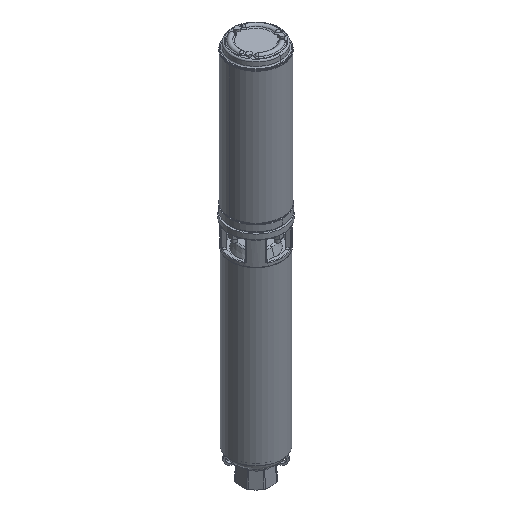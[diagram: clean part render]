
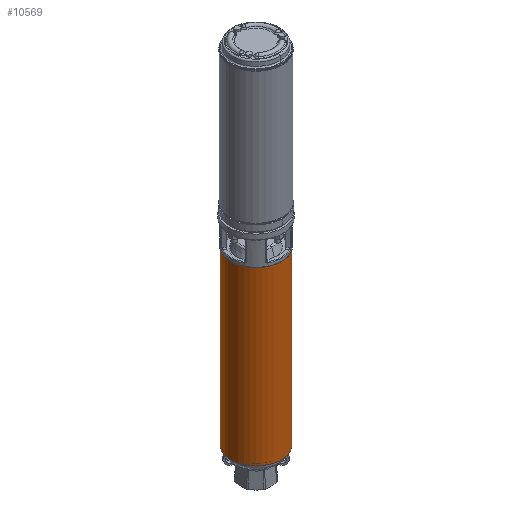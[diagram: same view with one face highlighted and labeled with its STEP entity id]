
A CAD part, isometric view. The second image highlights one B-rep face of the part: STEP entity #10569.
In plain terms, the highlighted cylindrical face has radius 44.5 mm (diameter 89 mm), a partial arc.
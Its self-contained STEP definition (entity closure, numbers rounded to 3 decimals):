
#36=CARTESIAN_POINT('',(0.,0.,0.));
#37=DIRECTION('',(1.,0.,0.));
#38=DIRECTION('',(0.,-0.966,0.259));
#39=AXIS2_PLACEMENT_3D('',#36,#37,#38);
#2893=DIRECTION('',(1.,0.,0.));
#2894=VECTOR('',#2893,300.);
#2895=CARTESIAN_POINT('',(0.,-11.517,42.984));
#2896=LINE('',#2895,#2894);
#3376=CARTESIAN_POINT('',(300.,0.,0.));
#3377=DIRECTION('',(1.,0.,0.));
#3378=DIRECTION('',(0.,-0.966,0.259));
#3379=AXIS2_PLACEMENT_3D('',#3376,#3377,#3378);
#3428=DIRECTION('',(1.,0.,0.));
#3429=VECTOR('',#3428,300.);
#3430=CARTESIAN_POINT('',(0.,-42.984,11.517));
#3431=LINE('',#3430,#3429);
#5252=CARTESIAN_POINT('',(300.,-11.517,42.984));
#5254=VERTEX_POINT('',#5252);
#5255=CARTESIAN_POINT('',(300.,-42.984,11.517));
#5257=VERTEX_POINT('',#5255);
#5834=CARTESIAN_POINT('',(0.,-42.984,11.517));
#5836=VERTEX_POINT('',#5834);
#5839=CARTESIAN_POINT('',(0.,-11.517,42.984));
#5841=VERTEX_POINT('',#5839);
#10558=CARTESIAN_POINT('',(0.,0.,0.));
#10559=DIRECTION('',(1.,0.,0.));
#10560=DIRECTION('',(0.,-1.,0.));
#10561=AXIS2_PLACEMENT_3D('',#10558,#10559,#10560);
#10562=CYLINDRICAL_SURFACE('',#10561,44.5);
#10563=ORIENTED_EDGE('',*,*,#6044,.F.);
#10564=ORIENTED_EDGE('',*,*,#9981,.T.);
#10565=ORIENTED_EDGE('',*,*,#10524,.T.);
#10566=ORIENTED_EDGE('',*,*,#10070,.F.);
#10567=EDGE_LOOP('',(#10563,#10564,#10565,#10566));
#10568=FACE_OUTER_BOUND('',#10567,.F.);
#10569=ADVANCED_FACE('',(#10568),#10562,.T.);
#40=CIRCLE('',#39,44.5);
#3380=CIRCLE('',#3379,44.5);
#6044=EDGE_CURVE('',#5836,#5841,#40,.T.);
#9981=EDGE_CURVE('',#5836,#5257,#3431,.T.);
#10070=EDGE_CURVE('',#5841,#5254,#2896,.T.);
#10524=EDGE_CURVE('',#5257,#5254,#3380,.T.);
